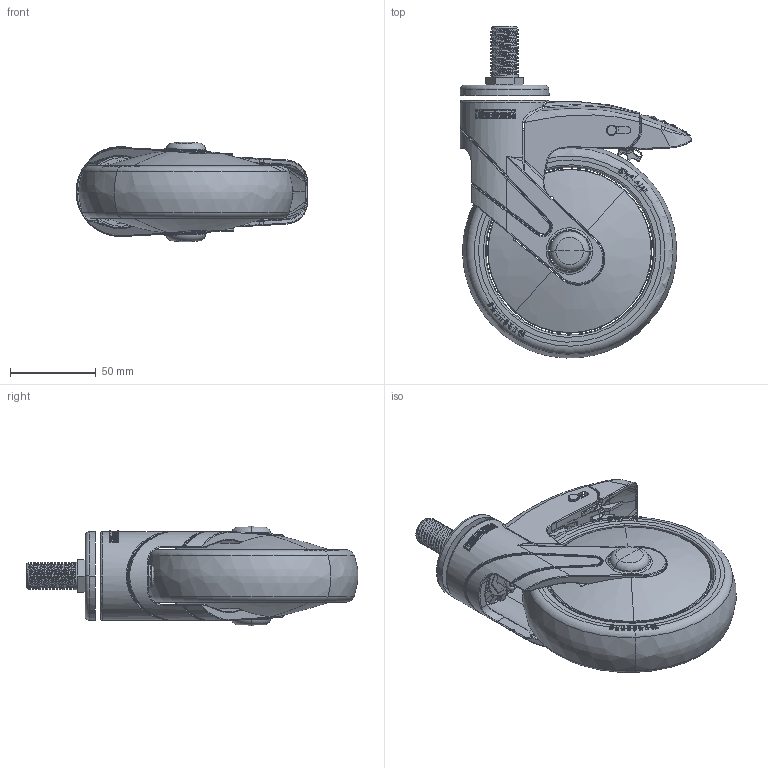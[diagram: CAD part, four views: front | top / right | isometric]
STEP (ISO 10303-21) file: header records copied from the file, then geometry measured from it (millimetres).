
FILE_DESCRIPTION((''),'2;1');
FILE_NAME('PRT0021','2026-01-16T16:08:26',('Administrator'),(''),'CREO PARAMETRIC BY PTC INC, 2022124','CREO PARAMETRIC BY PTC INC, 2022124','');
FILE_SCHEMA(('AUTOMOTIVE_DESIGN { 1 0 10303 214 1 1 1 1 }'));
Products named in the file (1): PRT0021
Bounding box: 135.39 x 193.97 x 58.19 mm (x, y, z)
Surface area: 77632.5 mm2 (no closed solid volume)
Topology: 0 solids, 68 shells, 813 faces, 3977 edges, 3108 vertices
Faces by surface type: bspline 252, cylinder 250, plane 176, torus 93, cone 28, sphere 12, extrusion 2
Entity records: 72363 total; most frequent: CARTESIAN_POINT 39589, ORIENTED_EDGE 5249, DIRECTION 4598, EDGE_CURVE 3961, VERTEX_POINT 3108, AXIS2_PLACEMENT_3D 1762, B_SPLINE_CURVE_WITH_KNOTS 1701, CIRCLE 1191
